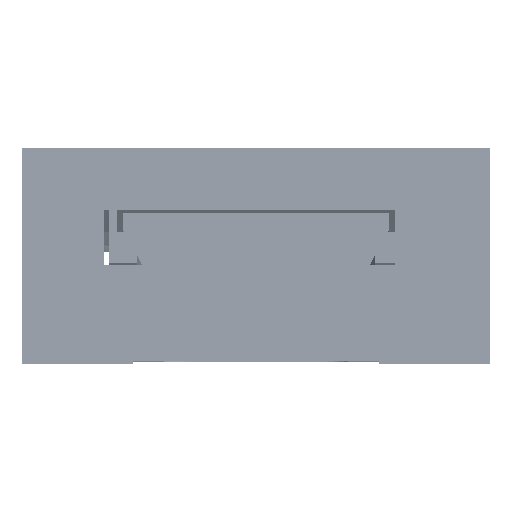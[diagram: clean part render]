
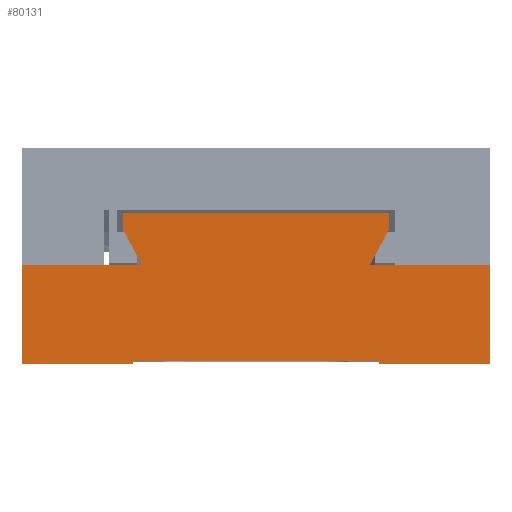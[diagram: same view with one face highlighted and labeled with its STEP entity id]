
A CAD part, top view. The second image highlights one B-rep face of the part: STEP entity #80131.
In plain terms, the highlighted planar face has unit normal (0, 0, 1).
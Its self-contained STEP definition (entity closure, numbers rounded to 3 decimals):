
#2423 = ORIENTED_EDGE ( 'NONE', *, *, #8174, .F. ) ;
#8174 = EDGE_CURVE ( 'NONE', #147206, #148986, #174034, .T. ) ;
#8235 = VERTEX_POINT ( 'NONE', #69011 ) ;
#8498 = CARTESIAN_POINT ( 'NONE',  ( 17.927, -91.944, 32.5 ) ) ;
#8870 = VECTOR ( 'NONE', #15575, 1000. ) ;
#9659 = LINE ( 'NONE', #78190, #57083 ) ;
#11736 = VECTOR ( 'NONE', #124055, 1000. ) ;
#12265 = ORIENTED_EDGE ( 'NONE', *, *, #37730, .T. ) ;
#13124 = EDGE_LOOP ( 'NONE', ( #89151, #120300, #163581, #13361, #2423, #82350, #12265, #43822, #43506, #137259, #63293, #65719, #52045, #150934 ) ) ;
#13361 = ORIENTED_EDGE ( 'NONE', *, *, #23247, .F. ) ;
#15401 = CARTESIAN_POINT ( 'NONE',  ( 32.243, -110., 32.5 ) ) ;
#15575 = DIRECTION ( 'NONE',  ( -1., 0., 0. ) ) ;
#16583 = DIRECTION ( 'NONE',  ( 0., -1., 0. ) ) ;
#16810 = LINE ( 'NONE', #56889, #77204 ) ;
#17232 = LINE ( 'NONE', #127557, #11736 ) ;
#22708 = DIRECTION ( 'NONE',  ( -1., 0., 0. ) ) ;
#23030 = DIRECTION ( 'NONE',  ( 0., 0., 1. ) ) ;
#23247 = EDGE_CURVE ( 'NONE', #148986, #110297, #68570, .T. ) ;
#23632 = VERTEX_POINT ( 'NONE', #110823 ) ;
#24386 = CARTESIAN_POINT ( 'NONE',  ( 16.888, -109.619, 32.5 ) ) ;
#25992 = CARTESIAN_POINT ( 'NONE',  ( 18.211, -91.423, 32.5 ) ) ;
#28496 = DIRECTION ( 'NONE',  ( 0., -1., 0. ) ) ;
#33460 = DIRECTION ( 'NONE',  ( -1., 0., 0. ) ) ;
#33467 = CARTESIAN_POINT ( 'NONE',  ( -17.402, -110., 32.5 ) ) ;
#37730 = EDGE_CURVE ( 'NONE', #23632, #58689, #16810, .T. ) ;
#37822 = VERTEX_POINT ( 'NONE', #64547 ) ;
#38960 = VERTEX_POINT ( 'NONE', #126291 ) ;
#40527 = VERTEX_POINT ( 'NONE', #92217 ) ;
#41438 = DIRECTION ( 'NONE',  ( 0., 1., 0. ) ) ;
#43506 = ORIENTED_EDGE ( 'NONE', *, *, #58215, .T. ) ;
#43822 = ORIENTED_EDGE ( 'NONE', *, *, #95905, .T. ) ;
#45929 = CARTESIAN_POINT ( 'NONE',  ( 16.888, -109.619, 32.5 ) ) ;
#46835 = CARTESIAN_POINT ( 'NONE',  ( 32.243, -96.262, 32.5 ) ) ;
#47377 = CARTESIAN_POINT ( 'NONE',  ( -16.948, -94.684, 32.5 ) ) ;
#47699 = CARTESIAN_POINT ( 'NONE',  ( 15.875, -95.708, 32.5 ) ) ;
#48256 = CARTESIAN_POINT ( 'NONE',  ( -16.086, -96.262, 32.5 ) ) ;
#49728 = CARTESIAN_POINT ( 'NONE',  ( -32.757, -110., 32.5 ) ) ;
#52021 = CARTESIAN_POINT ( 'NONE',  ( -16.086, -96.262, 32.5 ) ) ;
#52045 = ORIENTED_EDGE ( 'NONE', *, *, #99818, .T. ) ;
#53872 = CARTESIAN_POINT ( 'NONE',  ( 16.888, -109.619, 32.5 ) ) ;
#54134 = DIRECTION ( 'NONE',  ( 1., 0., 0. ) ) ;
#55500 = VERTEX_POINT ( 'NONE', #58742 ) ;
#56889 = CARTESIAN_POINT ( 'NONE',  ( 16.888, -110., 32.5 ) ) ;
#57083 = VECTOR ( 'NONE', #103104, 1000. ) ;
#57935 = CARTESIAN_POINT ( 'NONE',  ( -32.757, -110., 32.5 ) ) ;
#58215 = EDGE_CURVE ( 'NONE', #37822, #8235, #168729, .T. ) ;
#58689 = VERTEX_POINT ( 'NONE', #119121 ) ;
#58742 = CARTESIAN_POINT ( 'NONE',  ( -18.725, -89.101, 32.5 ) ) ;
#60670 = EDGE_CURVE ( 'NONE', #154387, #135082, #70232, .T. ) ;
#60847 = CARTESIAN_POINT ( 'NONE',  ( -16.086, -96.262, 32.5 ) ) ;
#63293 = ORIENTED_EDGE ( 'NONE', *, *, #78196, .T. ) ;
#64547 = CARTESIAN_POINT ( 'NONE',  ( 32.243, -96.262, 32.5 ) ) ;
#65418 = LINE ( 'NONE', #52021, #147459 ) ;
#65719 = ORIENTED_EDGE ( 'NONE', *, *, #143482, .T. ) ;
#68395 = CARTESIAN_POINT ( 'NONE',  ( -32.757, -110., 32.5 ) ) ;
#68570 = LINE ( 'NONE', #137930, #121731 ) ;
#69011 = CARTESIAN_POINT ( 'NONE',  ( 15.571, -96.262, 32.5 ) ) ;
#70232 = B_SPLINE_CURVE_WITH_KNOTS ( 'NONE', 3,
 ( #88302, #171021, #142573, #47377, #170133, #48256 ),
 .UNSPECIFIED., .F., .F.,
 ( 4, 1, 1, 4 ),
 ( 0., 0.333, 0.667, 1. ),
 .UNSPECIFIED. ) ;
#71456 = LINE ( 'NONE', #15401, #159123 ) ;
#72656 = CARTESIAN_POINT ( 'NONE',  ( 18.211, -91.423, 32.5 ) ) ;
#73315 = CARTESIAN_POINT ( 'NONE',  ( -17.402, -109.619, 32.5 ) ) ;
#74235 = EDGE_CURVE ( 'NONE', #141729, #40527, #80629, .T. ) ;
#77204 = VECTOR ( 'NONE', #125394, 1000. ) ;
#77667 = DIRECTION ( 'NONE',  ( 0., 1., 0. ) ) ;
#78190 = CARTESIAN_POINT ( 'NONE',  ( 18.211, -89.101, 32.5 ) ) ;
#78196 = EDGE_CURVE ( 'NONE', #128339, #38960, #145289, .T. ) ;
#80131 = ADVANCED_FACE ( 'NONE', ( #90662 ), #169859, .T. ) ;
#80629 = LINE ( 'NONE', #108183, #91040 ) ;
#82350 = ORIENTED_EDGE ( 'NONE', *, *, #175585, .T. ) ;
#84798 = DIRECTION ( 'NONE',  ( 0., 1., 0. ) ) ;
#86015 = CARTESIAN_POINT ( 'NONE',  ( 17.354, -92.998, 32.5 ) ) ;
#87803 = B_SPLINE_CURVE_WITH_KNOTS ( 'NONE', 3,
 ( #114459, #47699, #170453, #86015, #8498, #72656 ),
 .UNSPECIFIED., .F., .F.,
 ( 4, 1, 1, 4 ),
 ( 0., 0.333, 0.667, 1. ),
 .UNSPECIFIED. ) ;
#88302 = CARTESIAN_POINT ( 'NONE',  ( -18.725, -91.423, 32.5 ) ) ;
#89151 = ORIENTED_EDGE ( 'NONE', *, *, #91125, .T. ) ;
#90662 = FACE_OUTER_BOUND ( 'NONE', #13124, .T. ) ;
#91040 = VECTOR ( 'NONE', #41438, 1000. ) ;
#91125 = EDGE_CURVE ( 'NONE', #135082, #40527, #65418, .T. ) ;
#91852 = VECTOR ( 'NONE', #54134, 1000. ) ;
#92217 = CARTESIAN_POINT ( 'NONE',  ( -32.757, -96.262, 32.5 ) ) ;
#95905 = EDGE_CURVE ( 'NONE', #58689, #37822, #71456, .T. ) ;
#99818 = EDGE_CURVE ( 'NONE', #55500, #154387, #17232, .T. ) ;
#103104 = DIRECTION ( 'NONE',  ( -1., 0., 0. ) ) ;
#106853 = VECTOR ( 'NONE', #33460, 1000. ) ;
#108183 = CARTESIAN_POINT ( 'NONE',  ( -32.757, -110., 32.5 ) ) ;
#108325 = VECTOR ( 'NONE', #16583, 1000. ) ;
#108410 = LINE ( 'NONE', #68395, #91852 ) ;
#110297 = VERTEX_POINT ( 'NONE', #33467 ) ;
#110823 = CARTESIAN_POINT ( 'NONE',  ( 16.888, -110., 32.5 ) ) ;
#114459 = CARTESIAN_POINT ( 'NONE',  ( 15.571, -96.262, 32.5 ) ) ;
#117375 = DIRECTION ( 'NONE',  ( 1., 0., 0. ) ) ;
#119121 = CARTESIAN_POINT ( 'NONE',  ( 32.243, -110., 32.5 ) ) ;
#120300 = ORIENTED_EDGE ( 'NONE', *, *, #74235, .F. ) ;
#121731 = VECTOR ( 'NONE', #28496, 1000. ) ;
#124055 = DIRECTION ( 'NONE',  ( 0., -1., 0. ) ) ;
#125193 = CARTESIAN_POINT ( 'NONE',  ( -18.725, -91.423, 32.5 ) ) ;
#125394 = DIRECTION ( 'NONE',  ( 1., 0., 0. ) ) ;
#126291 = CARTESIAN_POINT ( 'NONE',  ( 18.211, -89.101, 32.5 ) ) ;
#127557 = CARTESIAN_POINT ( 'NONE',  ( -18.725, -89.101, 32.5 ) ) ;
#128339 = VERTEX_POINT ( 'NONE', #159354 ) ;
#135082 = VERTEX_POINT ( 'NONE', #60847 ) ;
#137259 = ORIENTED_EDGE ( 'NONE', *, *, #158880, .T. ) ;
#137930 = CARTESIAN_POINT ( 'NONE',  ( -17.402, -109.619, 32.5 ) ) ;
#139651 = EDGE_CURVE ( 'NONE', #141729, #110297, #108410, .T. ) ;
#141729 = VERTEX_POINT ( 'NONE', #57935 ) ;
#142573 = CARTESIAN_POINT ( 'NONE',  ( -17.811, -93.102, 32.5 ) ) ;
#143482 = EDGE_CURVE ( 'NONE', #38960, #55500, #9659, .T. ) ;
#145289 = LINE ( 'NONE', #25992, #149596 ) ;
#147081 = AXIS2_PLACEMENT_3D ( 'NONE', #49728, #23030, #117375 ) ;
#147206 = VERTEX_POINT ( 'NONE', #24386 ) ;
#147459 = VECTOR ( 'NONE', #22708, 1000. ) ;
#148986 = VERTEX_POINT ( 'NONE', #73315 ) ;
#149596 = VECTOR ( 'NONE', #77667, 1000. ) ;
#150934 = ORIENTED_EDGE ( 'NONE', *, *, #60670, .T. ) ;
#154387 = VERTEX_POINT ( 'NONE', #125193 ) ;
#158880 = EDGE_CURVE ( 'NONE', #8235, #128339, #87803, .T. ) ;
#159123 = VECTOR ( 'NONE', #84798, 1000. ) ;
#159354 = CARTESIAN_POINT ( 'NONE',  ( 18.211, -91.423, 32.5 ) ) ;
#163581 = ORIENTED_EDGE ( 'NONE', *, *, #139651, .T. ) ;
#167822 = LINE ( 'NONE', #45929, #108325 ) ;
#168729 = LINE ( 'NONE', #46835, #106853 ) ;
#169859 = PLANE ( 'NONE',  #147081 ) ;
#170133 = CARTESIAN_POINT ( 'NONE',  ( -16.371, -95.739, 32.5 ) ) ;
#170453 = CARTESIAN_POINT ( 'NONE',  ( 16.474, -94.61, 32.5 ) ) ;
#171021 = CARTESIAN_POINT ( 'NONE',  ( -18.417, -91.989, 32.5 ) ) ;
#174034 = LINE ( 'NONE', #53872, #8870 ) ;
#175585 = EDGE_CURVE ( 'NONE', #147206, #23632, #167822, .T. ) ;
